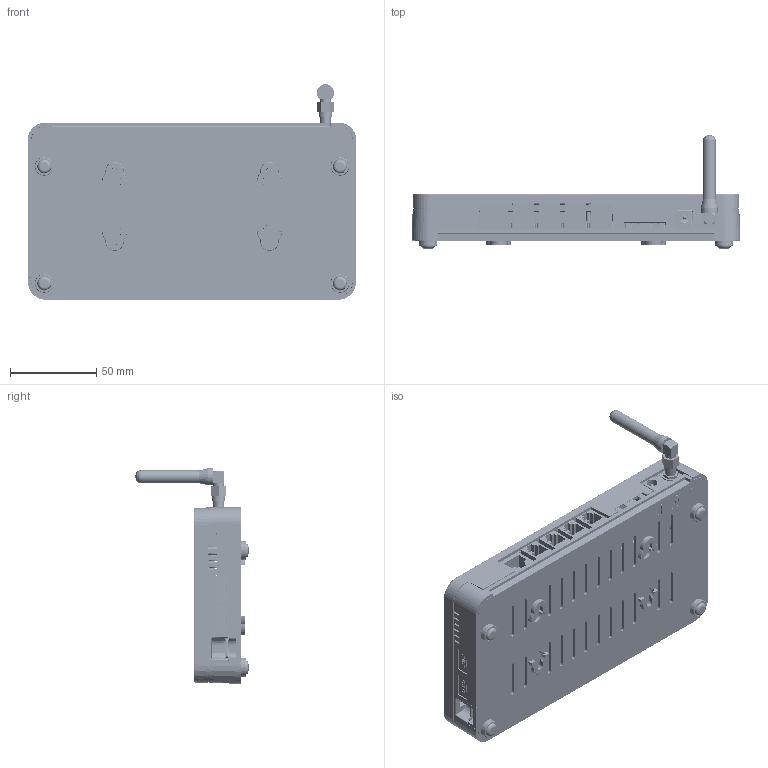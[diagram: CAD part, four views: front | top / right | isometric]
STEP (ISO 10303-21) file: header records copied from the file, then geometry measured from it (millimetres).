
FILE_DESCRIPTION(/* description */ (''),/* implementation_level */ '2;1');
FILE_NAME(/* name */ 'EH-01.step',/* time_stamp */ '2026-01-24T19:33:19+01:00',/* author */ (''),/* organization */ (''),/* preprocessor_version */ 'ST-DEVELOPER v20.1',/* originating_system */ 'Autodesk Translation Framework v14.24.0.0',/* authorisation */ '');
FILE_SCHEMA (('AUTOMOTIVE_DESIGN { 1 0 10303 214 3 1 1 }'));
Products named in the file (24): Centralka_2020-05-29; Góra_v.2.3; Płytka z elementami; Płytka_v.2.3; Złącze RJ; SWITCH 6X6Xkatowy; frame; bracket; 694106301002_Download_STP_694106301002_rev1; sma tht_przykręcana_CPY; 112I-TXAR-R_C_1; Micro SD Card; Antena zewnetrzna 868; rs; Dioda_półokrąg; USB+gniazdo + zatyczka_CPY; USB_poziome_CPY; USB_zatyczka od Gracka; Pokrywka_v2.3.2; Dół_v.2.4; szkło; swiatlowod1; swiatlowod2; noga_gumowa
Assembly tree (39 placements, depth 4):
  Centralka_2020-05-29
    Góra_v.2.3
    Płytka z elementami
      Płytka_v.2.3
      rs  x4
      Złącze RJ
      SWITCH 6X6Xkatowy
        frame
        bracket
      694106301002_Download_STP_694106301002_rev1
      Dioda_półokrąg  x10
      sma tht_przykręcana_CPY
      112I-TXAR-R_C_1
      Micro SD Card
      Antena zewnetrzna 868
      USB+gniazdo + zatyczka_CPY  x2
        USB_poziome_CPY
        USB_zatyczka od Gracka
    Pokrywka_v2.3.2
    Dół_v.2.4
    szkło
    swiatlowod1
    swiatlowod2
    noga_gumowa  x4
Bounding box: 190.82 x 65.67 x 125.3 mm (x, y, z)
Volume: 206492.2 mm3; surface area: 244366.6 mm2
Topology: 53 solids, 53 shells, 8681 faces, 23950 edges, 15613 vertices
Faces by surface type: plane 5778, cylinder 1505, bspline 925, cone 240, torus 157, sphere 76
Full cylindrical faces by diameter (mm): 0.66 x1, 0.8 x4, 0.85 x4, 1.45 x2, 1.5 x3, 1.8 x1, 2 x5, 2.5 x8, 3.2 x2, 3.5 x1, 3.55 x1, 4.7 x1, 6 x1, 6.15 x1, 6.3 x1, 6.4 x1, 6.5 x2, 6.8 x1, 7.5 x1, 7.7 x1, 8 x4, 10 x1, 10.2 x1
Entity records: 258481 total; most frequent: CARTESIAN_POINT 63740, ORIENTED_EDGE 42452, DIRECTION 36640, EDGE_CURVE 21226, LINE 15880, VECTOR 15880, VERTEX_POINT 13849, AXIS2_PLACEMENT_3D 10380
